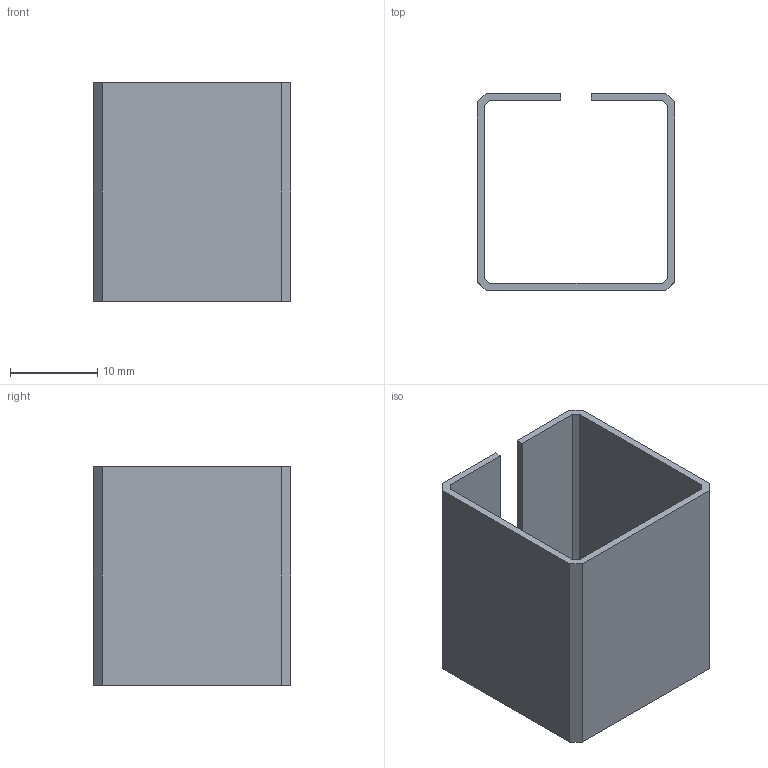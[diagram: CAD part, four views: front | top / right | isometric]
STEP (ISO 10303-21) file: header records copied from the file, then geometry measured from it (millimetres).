
FILE_DESCRIPTION (( 'STEP AP214' ), '1' );
FILE_NAME ('L16105.step', '2024-12-03T16:21:18', ( '' ), ( '' ), 'SwSTEP 2.0', 'SolidWorks 2023', '' );
FILE_SCHEMA (( 'AUTOMOTIVE_DESIGN' ));
Length unit declared in the file: millimetre
Products named in the file (1): L16105
Bounding box: 22.6 x 22.6 x 25 mm (x, y, z)
Volume: 1642 mm3; surface area: 4262.6 mm2
Topology: 1 solids, 1 shells, 22 faces, 60 edges, 40 vertices
Faces by surface type: plane 22
Entity records: 707 total; most frequent: CARTESIAN_POINT 123, ORIENTED_EDGE 120, DIRECTION 106, LINE 60, VECTOR 60, EDGE_CURVE 60, VERTEX_POINT 40, AXIS2_PLACEMENT_3D 23
